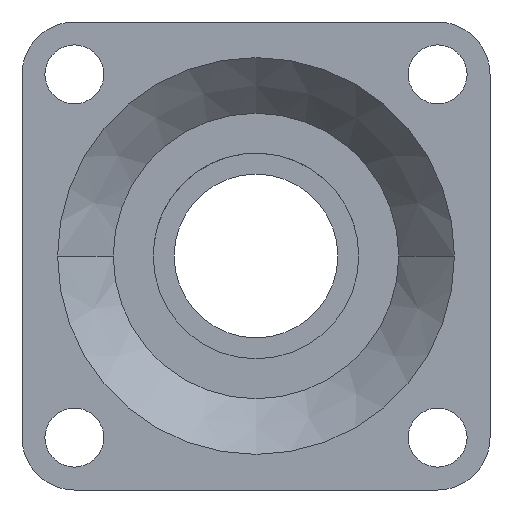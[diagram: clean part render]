
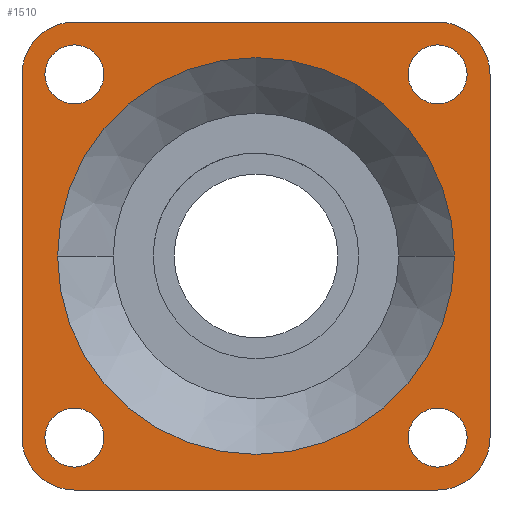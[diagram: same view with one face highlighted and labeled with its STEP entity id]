
A CAD part, left-side view. The second image highlights one B-rep face of the part: STEP entity #1510.
In plain terms, the highlighted planar face has unit normal (-1, 0, 0).
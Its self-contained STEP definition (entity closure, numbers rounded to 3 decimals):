
#10=CARTESIAN_POINT('',(-28.,101.817,0.));
#20=DIRECTION('',(-1.,0.,0.));
#30=DIRECTION('',(0.,1.,0.));
#40=AXIS2_PLACEMENT_3D('',#10,#20,#30);
#50=PLANE('',#40);
#60=CARTESIAN_POINT('',(-28.,-55.5,-55.5));
#70=DIRECTION('',(1.,0.,0.));
#80=DIRECTION('',(0.,0.,-1.));
#90=AXIS2_PLACEMENT_3D('',#60,#70,#80);
#100=CIRCLE('',#90,9.);
#110=CARTESIAN_POINT('',(-28.,-55.5,-64.5));
#120=VERTEX_POINT('VERTEX13675',#110);
#130=CARTESIAN_POINT('',(-28.,-55.5,-46.5));
#140=VERTEX_POINT('',#130);
#150=EDGE_CURVE('',#120,#140,#100,.T.);
#160=ORIENTED_EDGE('',*,*,#150,.T.);
#170=EDGE_CURVE('EDGE20635',#140,#120,#100,.T.);
#180=ORIENTED_EDGE('',*,*,#170,.T.);
#190=EDGE_LOOP('',(#180,#160));
#200=FACE_BOUND('',#190,.T.);
#210=CARTESIAN_POINT('',(-28.,-55.5,55.5));
#220=DIRECTION('',(1.,0.,0.));
#230=DIRECTION('',(0.,0.,-1.));
#240=AXIS2_PLACEMENT_3D('',#210,#220,#230);
#250=CIRCLE('',#240,9.);
#260=CARTESIAN_POINT('',(-28.,-55.5,64.5));
#270=VERTEX_POINT('VERTEX13676',#260);
#280=CARTESIAN_POINT('',(-28.,-55.5,46.5));
#290=VERTEX_POINT('',#280);
#300=EDGE_CURVE('',#270,#290,#250,.T.);
#310=ORIENTED_EDGE('',*,*,#300,.T.);
#320=EDGE_CURVE('EDGE20637',#290,#270,#250,.T.);
#330=ORIENTED_EDGE('',*,*,#320,.T.);
#340=EDGE_LOOP('',(#330,#310));
#350=FACE_BOUND('',#340,.T.);
#360=CARTESIAN_POINT('',(-28.,55.5,55.5));
#370=DIRECTION('',(1.,0.,0.));
#380=DIRECTION('',(0.,0.,-1.));
#390=AXIS2_PLACEMENT_3D('',#360,#370,#380);
#400=CIRCLE('',#390,9.);
#410=CARTESIAN_POINT('',(-28.,55.5,64.5));
#420=VERTEX_POINT('VERTEX13678',#410);
#430=CARTESIAN_POINT('',(-28.,55.5,46.5));
#440=VERTEX_POINT('',#430);
#450=EDGE_CURVE('',#420,#440,#400,.T.);
#460=ORIENTED_EDGE('',*,*,#450,.T.);
#470=EDGE_CURVE('EDGE20639',#440,#420,#400,.T.);
#480=ORIENTED_EDGE('',*,*,#470,.T.);
#490=EDGE_LOOP('',(#480,#460));
#500=FACE_BOUND('',#490,.T.);
#510=CARTESIAN_POINT('',(-28.,55.5,-55.5));
#520=DIRECTION('',(1.,0.,0.));
#530=DIRECTION('',(0.,0.,-1.));
#540=AXIS2_PLACEMENT_3D('',#510,#520,#530);
#550=CIRCLE('',#540,9.);
#560=CARTESIAN_POINT('',(-28.,55.5,-46.5));
#570=VERTEX_POINT('VERTEX13680',#560);
#580=CARTESIAN_POINT('',(-28.,55.5,-64.5));
#590=VERTEX_POINT('',#580);
#600=EDGE_CURVE('',#570,#590,#550,.T.);
#610=ORIENTED_EDGE('',*,*,#600,.T.);
#620=EDGE_CURVE('EDGE20641',#590,#570,#550,.T.);
#630=ORIENTED_EDGE('',*,*,#620,.T.);
#640=EDGE_LOOP('',(#630,#610));
#650=FACE_BOUND('',#640,.T.);
#660=CARTESIAN_POINT('',(-28.,55.5,55.5));
#670=DIRECTION('',(-1.,0.,0.));
#680=DIRECTION('',(0.,1.,0.));
#690=AXIS2_PLACEMENT_3D('',#660,#670,#680);
#700=CIRCLE('',#690,16.);
#710=CARTESIAN_POINT('',(-28.,55.5,71.5));
#720=VERTEX_POINT('VERTEX13689',#710);
#730=CARTESIAN_POINT('',(-28.,71.5,55.5));
#740=VERTEX_POINT('VERTEX13682',#730);
#750=EDGE_CURVE('EDGE20649',#720,#740,#700,.T.);
#760=ORIENTED_EDGE('',*,*,#750,.T.);
#770=CARTESIAN_POINT('',(-28.,23.159,71.5));
#780=DIRECTION('',(0.,1.,0.));
#790=VECTOR('',#780,1.);
#800=LINE('',#770,#790);
#810=CARTESIAN_POINT('',(-28.,-55.5,71.5));
#820=VERTEX_POINT('VERTEX13688',#810);
#830=EDGE_CURVE('EDGE20648',#820,#720,#800,.T.);
#840=ORIENTED_EDGE('',*,*,#830,.T.);
#850=CARTESIAN_POINT('',(-28.,-55.5,55.5));
#860=DIRECTION('',(-1.,0.,0.));
#870=DIRECTION('',(0.,0.,1.));
#880=AXIS2_PLACEMENT_3D('',#850,#860,#870);
#890=CIRCLE('',#880,16.);
#900=CARTESIAN_POINT('',(-28.,-71.5,55.5));
#910=VERTEX_POINT('VERTEX13687',#900);
#920=EDGE_CURVE('EDGE20647',#910,#820,#890,.T.);
#930=ORIENTED_EDGE('',*,*,#920,.T.);
#940=CARTESIAN_POINT('',(-28.,-71.5,-27.75));
#950=DIRECTION('',(0.,0.,1.));
#960=VECTOR('',#950,1.);
#970=LINE('',#940,#960);
#980=CARTESIAN_POINT('',(-28.,-71.5,-55.5));
#990=VERTEX_POINT('VERTEX13686',#980);
#1000=EDGE_CURVE('EDGE20646',#990,#910,#970,.T.);
#1010=ORIENTED_EDGE('',*,*,#1000,.T.);
#1020=CARTESIAN_POINT('',(-28.,-55.5,-55.5));
#1030=DIRECTION('',(-1.,0.,0.));
#1040=DIRECTION('',(0.,-1.,0.));
#1050=AXIS2_PLACEMENT_3D('',#1020,#1030,#1040);
#1060=CIRCLE('',#1050,16.);
#1070=CARTESIAN_POINT('',(-28.,-55.5,-71.5));
#1080=VERTEX_POINT('VERTEX13685',#1070);
#1090=EDGE_CURVE('EDGE20645',#1080,#990,#1060,.T.);
#1100=ORIENTED_EDGE('',*,*,#1090,.T.);
#1110=CARTESIAN_POINT('',(-28.,78.659,-71.5));
#1120=DIRECTION('',(0.,-1.,0.));
#1130=VECTOR('',#1120,1.);
#1140=LINE('',#1110,#1130);
#1150=CARTESIAN_POINT('',(-28.,55.5,-71.5));
#1160=VERTEX_POINT('VERTEX13684',#1150);
#1170=EDGE_CURVE('EDGE20644',#1160,#1080,#1140,.T.);
#1180=ORIENTED_EDGE('',*,*,#1170,.T.);
#1190=CARTESIAN_POINT('',(-28.,55.5,-55.5));
#1200=DIRECTION('',(-1.,0.,0.));
#1210=DIRECTION('',(0.,0.,-1.));
#1220=AXIS2_PLACEMENT_3D('',#1190,#1200,#1210);
#1230=CIRCLE('',#1220,16.);
#1240=CARTESIAN_POINT('',(-28.,71.5,-55.5));
#1250=VERTEX_POINT('VERTEX13683',#1240);
#1260=EDGE_CURVE('EDGE20643',#1250,#1160,#1230,.T.);
#1270=ORIENTED_EDGE('',*,*,#1260,.T.);
#1280=CARTESIAN_POINT('',(-28.,71.5,27.75));
#1290=DIRECTION('',(0.,0.,-1.));
#1300=VECTOR('',#1290,1.);
#1310=LINE('',#1280,#1300);
#1320=EDGE_CURVE('EDGE20642',#740,#1250,#1310,.T.);
#1330=ORIENTED_EDGE('',*,*,#1320,.T.);
#1340=EDGE_LOOP('',(#1330,#1270,#1180,#1100,#1010,#930,#840,#760));
#1350=FACE_OUTER_BOUND('',#1340,.T.);
#1360=CARTESIAN_POINT('',(-28.,0.,0.));
#1370=DIRECTION('',(-1.,0.,0.));
#1380=DIRECTION('',(0.,1.,0.));
#1390=AXIS2_PLACEMENT_3D('',#1360,#1370,#1380);
#1400=CIRCLE('',#1390,60.635);
#1410=CARTESIAN_POINT('',(-28.,-60.635,0.))
;
#1420=VERTEX_POINT('VERTEX13691',#1410);
#1430=CARTESIAN_POINT('',(-28.,60.635,0.));
#1440=VERTEX_POINT('',#1430);
#1450=EDGE_CURVE('',#1420,#1440,#1400,.T.);
#1460=ORIENTED_EDGE('',*,*,#1450,.F.);
#1470=EDGE_CURVE('EDGE20651',#1440,#1420,#1400,.T.);
#1480=ORIENTED_EDGE('',*,*,#1470,.F.);
#1490=EDGE_LOOP('',(#1480,#1460));
#1500=FACE_BOUND('',#1490,.T.);
#1510=ADVANCED_FACE('FACE9553',(#200,#350,#500,#650,#1350,#1500),#50,.T.
);
